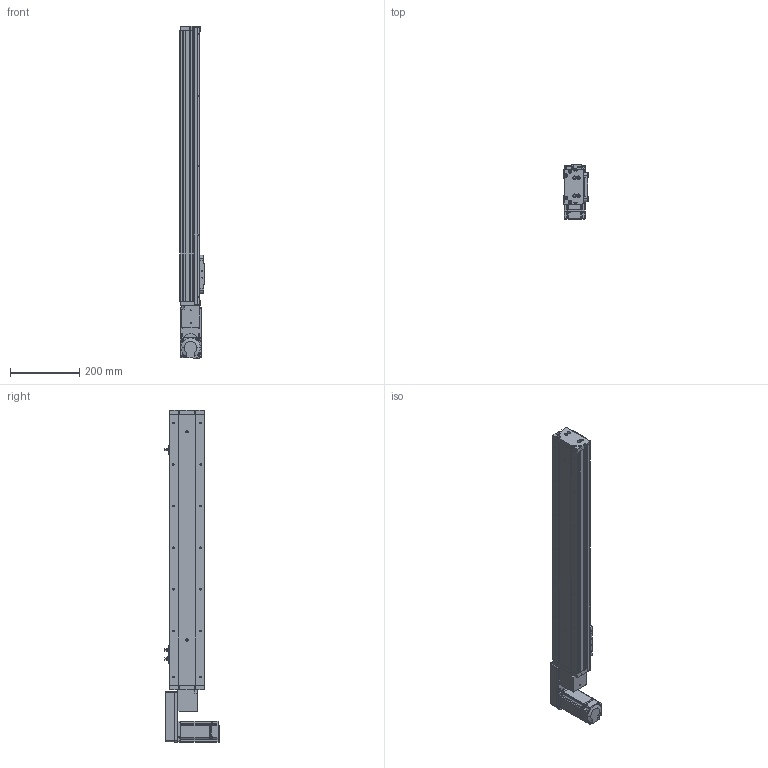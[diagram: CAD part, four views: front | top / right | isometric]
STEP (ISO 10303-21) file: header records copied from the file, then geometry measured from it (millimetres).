
FILE_DESCRIPTION (( 'STEP AP214' ), '1' );
FILE_NAME ('KSD100B-S600-MLB-CR.STEP', '2019-09-06T07:49:20', ( '微软用户' ), ( '微软中国' ), 'SwSTEP 2.0', 'SolidWorks 2014', '' );
FILE_SCHEMA (( 'AUTOMOTIVE_DESIGN' ));
Length unit declared in the file: millimetre
Products named in the file (15): 100宽马达安装板连板上下折丝杆同步带; 感应片100宽全封闭; U倰嫖萇EEㄜSX672; 100宽马达安装板同步带左; 100遵鎮湛假蚾啣蜊; 100宽端板同步带全封闭; 100宽滚珠螺姆安装板1防护罩; 100宽滚珠螺姆安装板1; 100遵裔啣揤啣; 100遵裔啣600俴最; 100宽侧板600行程同步带; 100宽底板全封闭600行程同步带; KSD100B-S600-MLB-CR; 悵誘欶奻狟殏; MHMD042G1CA_2_03
Assembly tree (18 placements, depth 2):
  KSD100B-S600-MLB-CR
    100宽底板全封闭600行程同步带
    100宽侧板600行程同步带  x2
    100遵裔啣600俴最
    100遵裔啣揤啣  x2
    100宽滚珠螺姆安装板1
    100宽滚珠螺姆安装板1防护罩
    100宽端板同步带全封闭
    100遵鎮湛假蚾啣蜊
    100宽马达安装板同步带左
    U倰嫖萇EEㄜSX672  x3
    感应片100宽全封闭
    100宽马达安装板连板上下折丝杆同步带
    悵誘欶奻狟殏
    MHMD042G1CA_2_03
Bounding box: 70 x 156.2 x 957 mm (x, y, z)
Volume: 1791048.4 mm3; surface area: 809885.3 mm2
Topology: 17 solids, 18 shells, 1713 faces, 4774 edges, 3073 vertices
Faces by surface type: cylinder 761, plane 733, cone 199, bspline 20
Entity records: 60598 total; most frequent: CARTESIAN_POINT 9198, DIRECTION 8284, ORIENTED_EDGE 7664, EDGE_CURVE 3904, AXIS2_PLACEMENT_3D 2981, VERTEX_POINT 2591, VECTOR 2322, LINE 2322
